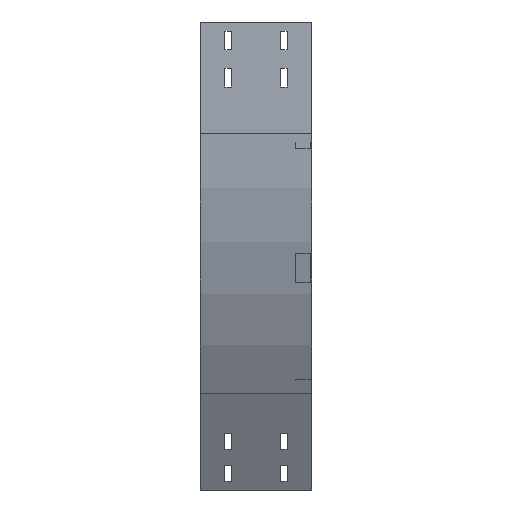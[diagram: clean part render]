
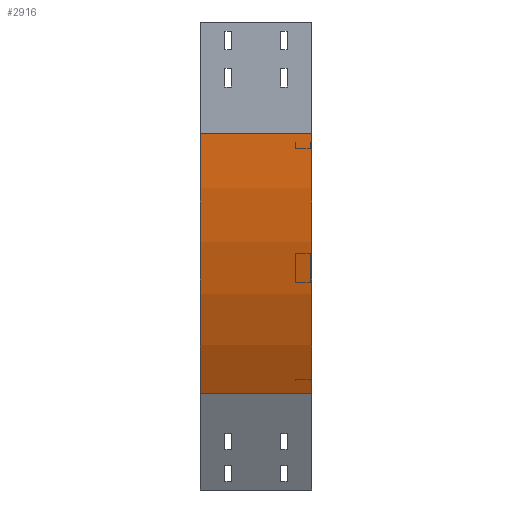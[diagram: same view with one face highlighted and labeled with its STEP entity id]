
A CAD part, left-side view. The second image highlights one B-rep face of the part: STEP entity #2916.
In plain terms, the highlighted cylindrical face has radius 700 mm (diameter 1400 mm), a partial arc.
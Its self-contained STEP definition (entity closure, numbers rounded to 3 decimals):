
#134 = DIRECTION ( 'NONE',  ( 0., -1., 0. ) ) ;
#162 = CARTESIAN_POINT ( 'NONE',  ( 0., 0., -150. ) ) ;
#260 = ORIENTED_EDGE ( 'NONE', *, *, #1087, .F. ) ;
#771 = VERTEX_POINT ( 'NONE', #1596 ) ;
#797 = CIRCLE ( 'NONE', #1597, 700. ) ;
#805 = CARTESIAN_POINT ( 'NONE',  ( 93.782, 0., -500. ) ) ;
#846 = VERTEX_POINT ( 'NONE', #1656 ) ;
#863 = AXIS2_PLACEMENT_3D ( 'NONE', #1358, #2535, #3721 ) ;
#932 = VERTEX_POINT ( 'NONE', #162 ) ;
#940 = VERTEX_POINT ( 'NONE', #805 ) ;
#1087 = EDGE_CURVE ( 'NONE', #771, #932, #1167, .T. ) ;
#1167 = LINE ( 'NONE', #2055, #2826 ) ;
#1175 = CARTESIAN_POINT ( 'NONE',  ( 700., 0., -150. ) ) ;
#1194 = FACE_OUTER_BOUND ( 'NONE', #3561, .T. ) ;
#1215 = CYLINDRICAL_SURFACE ( 'NONE', #3443, 700. ) ;
#1270 = LINE ( 'NONE', #1312, #3731 ) ;
#1312 = CARTESIAN_POINT ( 'NONE',  ( 93.782, 0., -500. ) ) ;
#1358 = CARTESIAN_POINT ( 'NONE',  ( 700., 150., -150. ) ) ;
#1596 = CARTESIAN_POINT ( 'NONE',  ( 0., 150., -150. ) ) ;
#1597 = AXIS2_PLACEMENT_3D ( 'NONE', #2379, #3200, #2928 ) ;
#1656 = CARTESIAN_POINT ( 'NONE',  ( 93.782, 150., -500. ) ) ;
#2055 = CARTESIAN_POINT ( 'NONE',  ( 0., 0., -150. ) ) ;
#2082 = DIRECTION ( 'NONE',  ( 0., -1., 0. ) ) ;
#2101 = ORIENTED_EDGE ( 'NONE', *, *, #3543, .F. ) ;
#2107 = EDGE_CURVE ( 'NONE', #846, #940, #1270, .T. ) ;
#2351 = DIRECTION ( 'NONE',  ( 0., 0., -1. ) ) ;
#2379 = CARTESIAN_POINT ( 'NONE',  ( 700., 0., -150. ) ) ;
#2535 = DIRECTION ( 'NONE',  ( 0., -1., 0. ) ) ;
#2602 = ORIENTED_EDGE ( 'NONE', *, *, #2107, .T. ) ;
#2768 = CIRCLE ( 'NONE', #863, 700. ) ;
#2826 = VECTOR ( 'NONE', #3242, 1000. ) ;
#2916 = ADVANCED_FACE ( 'NONE', ( #1194 ), #1215, .T. ) ;
#2928 = DIRECTION ( 'NONE',  ( -1., 0., 0. ) ) ;
#3200 = DIRECTION ( 'NONE',  ( 0., -1., 0. ) ) ;
#3242 = DIRECTION ( 'NONE',  ( 0., -1., 0. ) ) ;
#3443 = AXIS2_PLACEMENT_3D ( 'NONE', #1175, #2082, #2351 ) ;
#3476 = ORIENTED_EDGE ( 'NONE', *, *, #3493, .T. ) ;
#3493 = EDGE_CURVE ( 'NONE', #771, #846, #2768, .T. ) ;
#3543 = EDGE_CURVE ( 'NONE', #932, #940, #797, .T. ) ;
#3561 = EDGE_LOOP ( 'NONE', ( #2101, #260, #3476, #2602 ) ) ;
#3721 = DIRECTION ( 'NONE',  ( -1., 0., 0. ) ) ;
#3731 = VECTOR ( 'NONE', #134, 1000. ) ;
